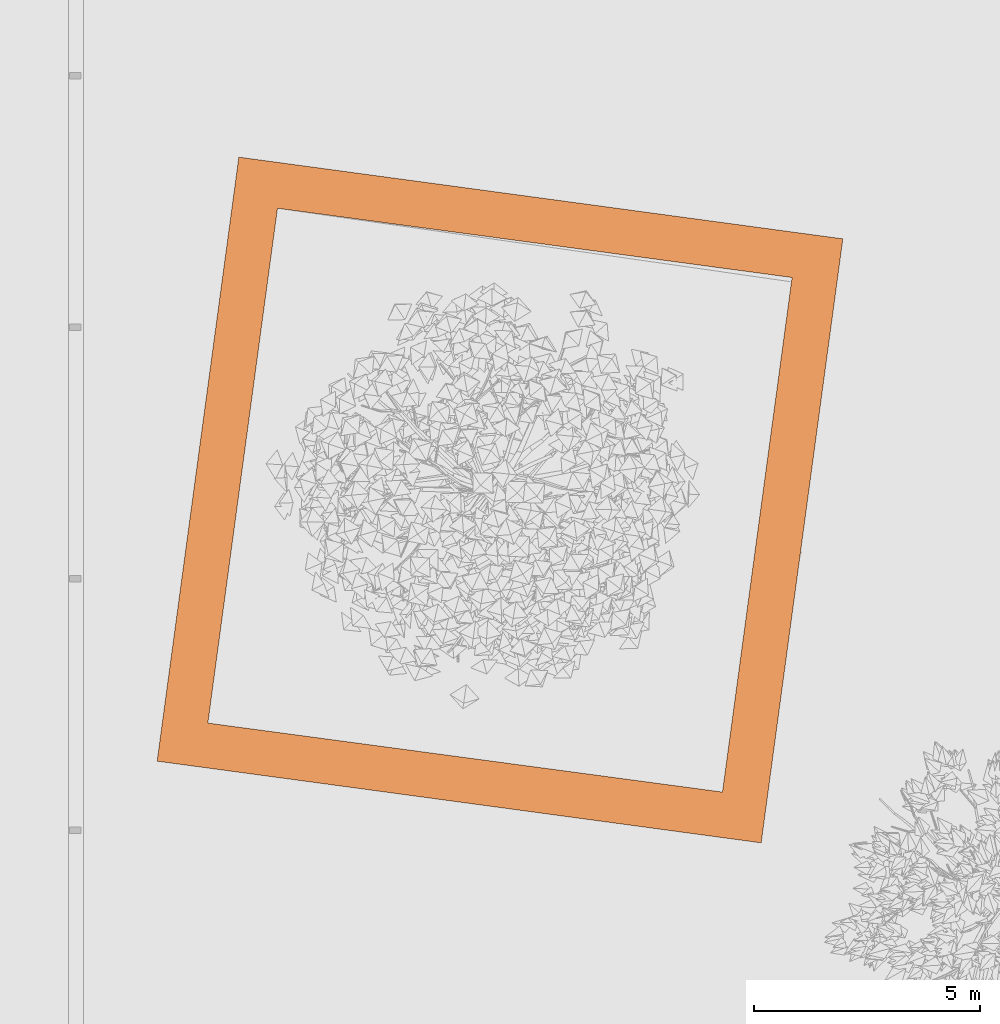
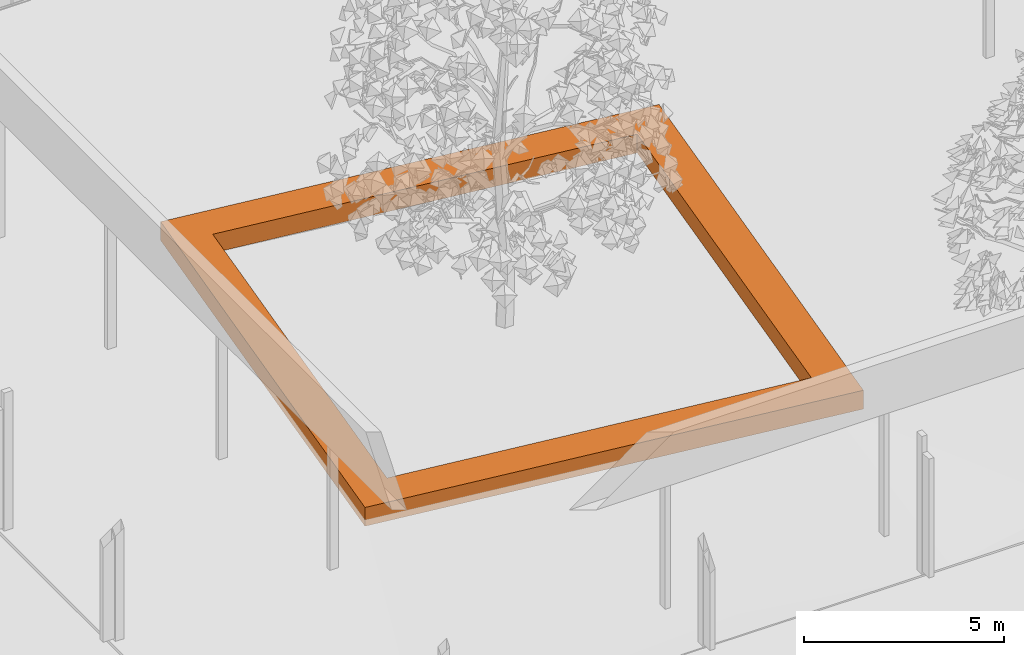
# One storey, part 49 of 69: 1 proxy.
"""IFC2X3 building model written with IfcOpenShell, lengths in millimetres."""

import ifcopenshell
import ifcopenshell.guid

model = None  # the IFC model being written
_history = None  # IfcOwnerHistory: only IFC2X3 demands one
_inside = {}  # id of a spatial element -> (the spatial element, [elements in it])
_under = {}  # id of a project, library or spatial element -> (it, [spatial elements below it])
_declared = {}  # id of a project -> (the project, [libraries it declares])
_typed = {}  # id of a type object -> (the type object, [elements of that type])
_made_of = {}  # id of a material, layer set ... -> (it, [elements and type objects made of it])


def new_model(schema):
    """Start an empty IFC model of exactly this schema.

    Asked for "IFC4X3", IfcOpenShell would pick the latest addendum, in which some entities
    have other attributes; the version numbers below select the first issue.
    IFC2X3 requires an IfcOwnerHistory on every rooted entity: one is made here for all.
    """
    global model, _history
    if schema == "IFC4X3":
        model = ifcopenshell.file(schema_version=(4, 3, 0, 0))
    else:
        model = ifcopenshell.file(schema=schema)
    _inside.clear()
    _under.clear()
    _declared.clear()
    _typed.clear()
    _made_of.clear()
    _history = None
    if model.schema == "IFC2X3":
        org = make("IfcOrganization", Name="unknown")
        user = make(
            "IfcPersonAndOrganization",
            ThePerson=make("IfcPerson", FamilyName="unknown"),
            TheOrganization=org,
        )
        app = make(
            "IfcApplication",
            ApplicationDeveloper=org,
            Version="unknown",
            ApplicationFullName="unknown",
            ApplicationIdentifier="unknown",
        )
        _history = make(
            "IfcOwnerHistory",
            OwningUser=user,
            OwningApplication=app,
            ChangeAction="ADDED",
            CreationDate=0,
        )
    return model


def make(cls, **values):
    """One entity of the class cls with the attributes given. An attribute that is None is left unset."""
    return model.create_entity(
        cls, **{name: value for name, value in values.items() if value is not None}
    )


def entity(cls, *values):
    """Any entity or typed value of the class cls, its attributes in the order of the schema. None: left unset."""
    e = model.create_entity(cls)
    for i, value in enumerate(values):
        if value is not None:
            e[i] = value
    return e


def rooted(cls, **values):
    """An entity with a GlobalId (a new one), such as an element, a storey or a relation."""
    return make(cls, GlobalId=ifcopenshell.guid.new(), OwnerHistory=_history, **values)


def si_unit(unit_type, name, prefix=None):
    """IfcSIUnit, for example si_unit("LENGTHUNIT", "METRE", prefix="MILLI")."""
    return make("IfcSIUnit", UnitType=unit_type, Prefix=prefix, Name=name)


def converted_unit(unit_type, name, factor, base, dimensions=None, offset=None):
    """IfcConversionBasedUnit, such as the inch: factor (a typed value) times the base unit."""
    return make(
        "IfcConversionBasedUnit"
        if offset is None
        else "IfcConversionBasedUnitWithOffset",
        ConversionOffset=offset,
        Dimensions=None
        if dimensions is None
        else entity("IfcDimensionalExponents", *dimensions),
        UnitType=unit_type,
        Name=name,
        ConversionFactor=make(
            "IfcMeasureWithUnit", ValueComponent=factor, UnitComponent=base
        ),
    )


def derived_unit(unit_type, elements):
    """IfcDerivedUnit: a product of units, each with its exponent."""
    return make(
        "IfcDerivedUnit",
        Elements=[
            make("IfcDerivedUnitElement", Unit=unit, Exponent=power)
            for unit, power in elements
        ],
        UnitType=unit_type,
    )


def money_unit(currency):
    """IfcMonetaryUnit."""
    return make("IfcMonetaryUnit", Currency=currency)


def assignment(units):
    """IfcUnitAssignment: the units of a project."""
    return None if units is None else make("IfcUnitAssignment", Units=units)


def point(xyz):
    """IfcCartesianPoint."""
    return None if xyz is None else make("IfcCartesianPoint", Coordinates=xyz)


def direction(xyz):
    """IfcDirection."""
    return None if xyz is None else make("IfcDirection", DirectionRatios=xyz)


def frame(location, z_axis=None, x_axis=None):
    """IfcAxis2Placement3D, a coordinate frame: its origin and axes. An axis left out is left unset."""
    return make(
        "IfcAxis2Placement3D",
        Location=point(location),
        Axis=direction(z_axis),
        RefDirection=direction(x_axis),
    )


def origin_with_axes():
    """The frame at (0, 0, 0) with the z axis (0, 0, 1) and the x axis (1, 0, 0) written out."""
    return frame((0.0, 0.0, 0.0), z_axis=(0.0, 0.0, 1.0), x_axis=(1.0, 0.0, 0.0))


def place(relative_to, where):
    """IfcLocalPlacement: puts the frame where relative to a parent placement (None: the world)."""
    return make(
        "IfcLocalPlacement", PlacementRelTo=relative_to, RelativePlacement=where
    )


def context(
    kind, dimensions, precision=None, world=None, true_north=None, identifier=None
):
    """IfcGeometricRepresentationContext, for example the 3D "Model" context."""
    return make(
        "IfcGeometricRepresentationContext",
        ContextIdentifier=identifier,
        ContextType=kind,
        CoordinateSpaceDimension=dimensions,
        Precision=precision,
        WorldCoordinateSystem=world,
        TrueNorth=true_north,
    )


def subcontext(parent, identifier, kind, view, scale=None):
    """IfcGeometricRepresentationSubContext, for example "Body" below "Model"."""
    return make(
        "IfcGeometricRepresentationSubContext",
        ContextIdentifier=identifier,
        ContextType=kind,
        ParentContext=parent,
        TargetScale=scale,
        TargetView=view,
    )


def project(units=None, contexts=None):
    """IfcProject with its units and contexts."""
    return rooted(
        "IfcProject",
        Name="project",
        RepresentationContexts=contexts,
        UnitsInContext=assignment(units),
    )


def spatial(cls, under=None, at=None, **own):
    """A site, building, storey or space (cls), placed at a placement, below another one or the project."""
    s = rooted(cls, ObjectPlacement=at, **own)
    if under is not None:
        _under.setdefault(under.id(), (under, []))[1].append(s)
    return s


def polyline(points):
    """IfcPolyline through the points."""
    return make("IfcPolyline", Points=[point(p) for p in points])


def outline(outer, holes=None, kind="AREA"):
    """IfcArbitraryClosedProfileDef: a profile drawn as a closed curve; with holes, ...WithVoids."""
    if holes is None:
        return make("IfcArbitraryClosedProfileDef", ProfileType=kind, OuterCurve=outer)
    return make(
        "IfcArbitraryProfileDefWithVoids",
        ProfileType=kind,
        OuterCurve=outer,
        InnerCurves=holes,
    )


def extrude(swept, where, along, depth):
    """IfcExtrudedAreaSolid: the profile swept, set in the frame where, extruded along a direction by depth."""
    return make(
        "IfcExtrudedAreaSolid",
        SweptArea=swept,
        Position=where,
        ExtrudedDirection=direction(along),
        Depth=depth,
    )


def boolean(op, a, b):
    """IfcBooleanResult of two solids."""
    return make("IfcBooleanResult", Operator=op, FirstOperand=a, SecondOperand=b)


def faces_of(points, faces, orient=None, outer=None):
    """IfcFace entities. A face is a list of loops; a loop is a list of indices into points, from 0.

    orient and outer hold one flag for each loop. By default every Orientation is true, the
    first loop of a face is its IfcFaceOuterBound and the others are IfcFaceBound.
    """
    made = []
    for i, loops in enumerate(faces):
        bounds = []
        for j, loop in enumerate(loops):
            is_outer = j == 0 if outer is None else outer[i][j]
            bounds.append(
                make(
                    "IfcFaceOuterBound" if is_outer else "IfcFaceBound",
                    Bound=make("IfcPolyLoop", Polygon=[points[k] for k in loop]),
                    Orientation=True if orient is None else orient[i][j],
                )
            )
        made.append(make("IfcFace", Bounds=bounds))
    return made


def faceted_brep(points, faces, orient=None, outer=None, voids=None):
    """IfcFacetedBrep: a solid bounded by flat faces; with voids (closed shells), ...WithVoids."""
    shared = [point(p) for p in points]
    hull = make("IfcClosedShell", CfsFaces=faces_of(shared, faces, orient, outer))
    if voids is None:
        return make("IfcFacetedBrep", Outer=hull)
    return make(
        "IfcFacetedBrepWithVoids",
        Outer=hull,
        Voids=[
            make(cls, CfsFaces=faces_of(shared, fs, o, b)) for cls, fs, o, b in voids
        ],
    )


def shape(context_of_items, identifier, shape_type, items):
    """IfcShapeRepresentation: the items that make up one representation, for example the "Body"."""
    return make(
        "IfcShapeRepresentation",
        ContextOfItems=context_of_items,
        RepresentationIdentifier=identifier,
        RepresentationType=shape_type,
        Items=items,
    )


def material(Name=None, Category=None):
    """IfcMaterial."""
    return make("IfcMaterial", Name=Name, Category=Category)


def made_of(thing, what):
    """Note that an element or type object is made of a material, layer set ...; save() writes the relation."""
    if what is not None:
        _made_of.setdefault(what.id(), (what, []))[1].append(thing)
    return thing


def type_object(cls, material=None, **own):
    """A type object (cls), such as IfcWallType, which elements share."""
    return made_of(rooted(cls, **own), material)


def element(
    cls,
    number,
    at=None,
    inside=None,
    cuts=None,
    type_object=None,
    material=None,
    context=None,
    identifier="Body",
    shape_type=None,
    held_by="IfcProductDefinitionShape",
    body=None,
    shapes=None,
    **own,
):
    """One element of the class cls, such as IfcWall. Its Tag is "e" and its number.

    at: its placement. inside: the storey or other place that contains it. cuts: it is an
    opening in that element (IfcRelVoidsElement). A single representation is given by context,
    identifier, shape_type and body (its items); several are given by shapes. held_by: the class
    of the entity that holds the representations. save() writes the other relations.
    """
    e = rooted(cls, Tag="e%d" % number, ObjectPlacement=at, **own)
    if body is not None:
        shapes = [shape(context, identifier, shape_type, body)]
    if shapes is not None:
        e.Representation = make(held_by, Representations=shapes)
    if inside is not None:
        _inside.setdefault(inside.id(), (inside, []))[1].append(e)
    if cuts is not None:
        rooted(
            "IfcRelVoidsElement", RelatingBuildingElement=cuts, RelatedOpeningElement=e
        )
    if type_object is not None:
        _typed.setdefault(type_object.id(), (type_object, []))[1].append(e)
    return made_of(e, material)


def aggregate(whole, parts):
    """IfcRelAggregates: a whole, such as a stair, and the parts it consists of."""
    return rooted("IfcRelAggregates", RelatingObject=whole, RelatedObjects=parts)


def save(model, path):
    """Write the relations noted so far, then the file.

    IfcRelAggregates (storeys below a building ...), IfcRelContainedInSpatialStructure (elements
    in a storey), IfcRelDefinesByType, IfcRelAssociatesMaterial and IfcRelDeclares: one each for
    every whole, place, type object, material and project.
    """
    for whole, parts in _under.values():
        aggregate(whole, parts)
    for where, things in _inside.values():
        rooted(
            "IfcRelContainedInSpatialStructure",
            RelatedElements=things,
            RelatingStructure=where,
        )
    for kind, things in _typed.values():
        rooted("IfcRelDefinesByType", RelatedObjects=things, RelatingType=kind)
    for what, things in _made_of.values():
        rooted("IfcRelAssociatesMaterial", RelatedObjects=things, RelatingMaterial=what)
    for by, libraries in _declared.values():
        rooted("IfcRelDeclares", RelatingContext=by, RelatedDefinitions=libraries)
    model.write(path)


model = new_model("IFC2X3")

# Units and contexts
model_context = context("Model", 3, precision=0.01, world=origin_with_axes(), true_north=direction((0.0, 1.0)))
body_context = subcontext(model_context, "Body", "Model", "MODEL_VIEW")
ifc_project = project(units=[si_unit("LENGTHUNIT", "METRE", prefix="MILLI"), si_unit("AREAUNIT", "SQUARE_METRE"), si_unit("VOLUMEUNIT", "CUBIC_METRE"), converted_unit("PLANEANGLEUNIT", "DEGREE", entity("IfcPlaneAngleMeasure", 0.0174532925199), si_unit("PLANEANGLEUNIT", "RADIAN"), dimensions=[0, 0, 0, 0, 0, 0, 0]), si_unit("SOLIDANGLEUNIT", "STERADIAN"), money_unit("EUR"), converted_unit("TIMEUNIT", "Year", entity("IfcTimeMeasure", 31556926.0), si_unit("TIMEUNIT", "SECOND"), dimensions=[0, 0, 1, 0, 0, 0, 0]), si_unit("MASSUNIT", "GRAM", prefix="KILO"), si_unit("THERMODYNAMICTEMPERATUREUNIT", "DEGREE_CELSIUS"), si_unit("LUMINOUSINTENSITYUNIT", "LUMEN"), si_unit("ENERGYUNIT", "JOULE", prefix="MEGA"), derived_unit("THERMALCONDUCTANCEUNIT", [(si_unit("POWERUNIT", "WATT"), 1), (si_unit("LENGTHUNIT", "METRE"), -1), (si_unit("THERMODYNAMICTEMPERATUREUNIT", "KELVIN"), -1)]), derived_unit("SPECIFICHEATCAPACITYUNIT", [(si_unit("ENERGYUNIT", "JOULE"), 1), (si_unit("MASSUNIT", "GRAM", prefix="KILO"), -1), (si_unit("THERMODYNAMICTEMPERATUREUNIT", "KELVIN"), -1)]), derived_unit("MASSDENSITYUNIT", [(si_unit("MASSUNIT", "GRAM", prefix="KILO"), 1), (si_unit("VOLUMEUNIT", "CUBIC_METRE"), -1)])], contexts=[model_context])

# Site, building, storey
site_placement = place(None, origin_with_axes())
site = spatial("IfcSite", under=ifc_project, at=site_placement, Name="Puškini 31, Narva", CompositionType="ELEMENT")
building_placement = place(site_placement, origin_with_axes())
building = spatial("IfcBuilding", under=site, at=building_placement, Name="Narva Riigigümnaasium", CompositionType="ELEMENT")
storey_placement = place(building_placement, origin_with_axes())
storey = spatial("IfcBuildingStorey", under=building, at=storey_placement, Name="1.korrus 0.00", CompositionType="ELEMENT", Elevation=0.0)

# Proxy
ifc_material = material(Name="SV-02_Puit - Põrand")
building_element_proxy_type = type_object("IfcBuildingElementProxyType", Name="SV-02_Puit - Põrand 574", PredefinedType="NOTDEFINED")
proxy_placement = place(storey_placement, frame((25831.191812, 139552.376816, -300.0), z_axis=(0.0, 0.0, 1.0), x_axis=(1.0, 0.0, 0.0)))
element("IfcBuildingElementProxy", 1, at=proxy_placement, inside=storey, type_object=building_element_proxy_type, material=ifc_material, Name="Pink", context=body_context, shape_type="CSG", body=[
    boolean("DIFFERENCE", extrude(outline(polyline([(0.0, 0.0), (-1809.16483366, -13378.2256897), (11569.060856, -15187.3905234), (13378.2256897, -1809.16483366), (0.0, 0.0)])), origin_with_axes(), (0.0, 0.0, 1.0), 573.814791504), faceted_brep([(-685.985627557, -12534.6624713, 0.0), (855.939439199, -1132.59387269, 0.0), (12253.2337991, -2666.13230443, 0.0), (10712.0933852, -14062.3986327, 0.0), (-685.985627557, -12534.6624713, 573.814791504), (855.939439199, -1132.59387269, 573.814791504), (12253.2337991, -2666.13230443, 573.814791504), (10712.0933852, -14062.3986327, 573.814791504)], [[[0, 1, 2, 3]], [[4, 5, 1, 0]], [[5, 6, 2, 1]], [[6, 7, 3, 2]], [[7, 4, 0, 3]], [[4, 7, 6, 5]]])),
])

save(model, "model.ifc")
